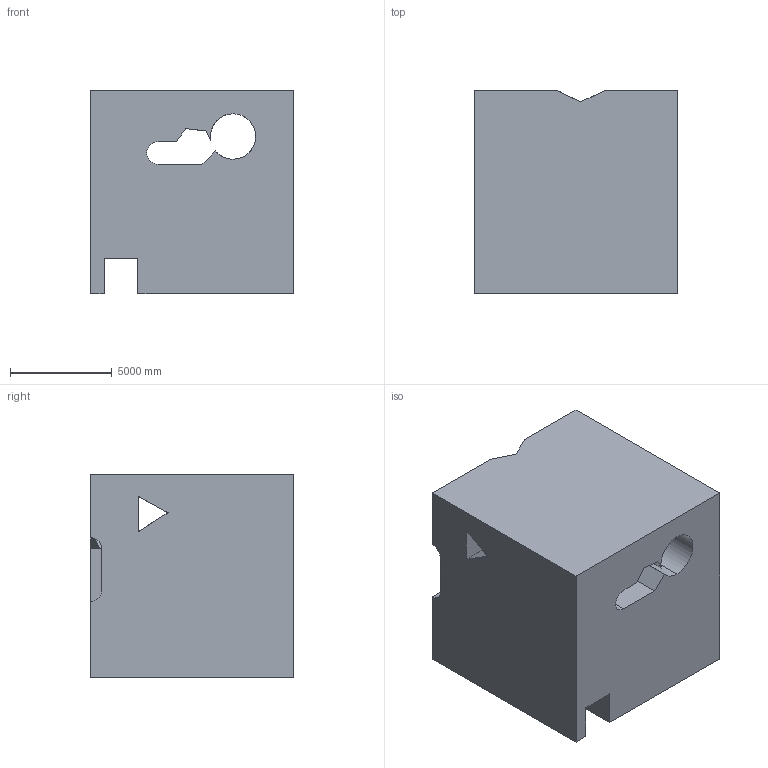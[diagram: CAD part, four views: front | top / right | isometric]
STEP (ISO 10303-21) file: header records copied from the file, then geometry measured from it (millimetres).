
FILE_DESCRIPTION (( 'STEP AP203' ), '1' );
FILE_NAME ('1846.STEP', '2022-08-25T16:10:45', ( 'user' ), ( '' ), 'SwSTEP 2.0', 'SolidWorks 2021', '' );
FILE_SCHEMA (( 'CONFIG_CONTROL_DESIGN' ));
Length unit declared in the file: centimetre
Products named in the file (1): 1846
Bounding box: 10000 x 10000 x 10000 mm (x, y, z)
Volume: 850216004654.3 mm3; surface area: 815372041.6 mm2
Topology: 1 solids, 1 shells, 51 faces, 159 edges, 106 vertices
Faces by surface type: plane 44, cylinder 7
Entity records: 1926 total; most frequent: CARTESIAN_POINT 441, ORIENTED_EDGE 318, DIRECTION 266, EDGE_CURVE 159, VECTOR 128, LINE 128, VERTEX_POINT 106, AXIS2_PLACEMENT_3D 69
